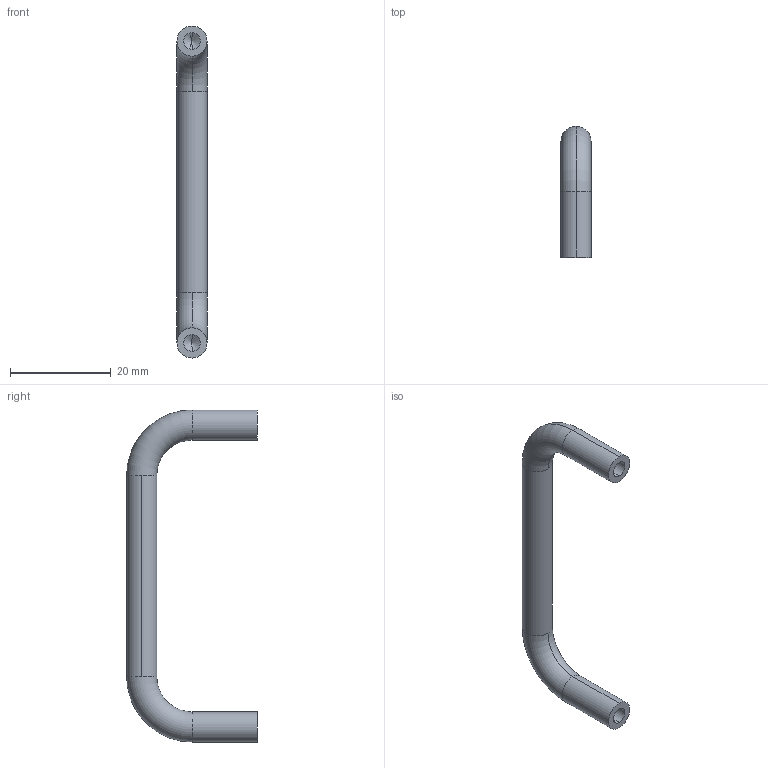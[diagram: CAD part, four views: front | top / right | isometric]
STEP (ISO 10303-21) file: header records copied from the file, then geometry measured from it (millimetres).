
FILE_DESCRIPTION (( 'STEP AP203' ), '1' );
FILE_NAME ('E03-503060.STEP', '2023-04-20T06:38:36', ( '' ), ( '' ), 'SwSTEP 2.0', 'SolidWorks 2021', '' );
FILE_SCHEMA (( 'CONFIG_CONTROL_DESIGN' ));
Length unit declared in the file: millimetre
Products named in the file (1): E03-503060
Bounding box: 6 x 26 x 66 mm (x, y, z)
Volume: 2552 mm3; surface area: 2134.1 mm2
Topology: 1 solids, 1 shells, 20 faces, 46 edges, 26 vertices
Faces by surface type: cylinder 10, torus 4, cone 4, plane 2
Entity records: 623 total; most frequent: DIRECTION 112, CARTESIAN_POINT 89, ORIENTED_EDGE 84, AXIS2_PLACEMENT_3D 49, EDGE_CURVE 42, CIRCLE 28, VERTEX_POINT 26, EDGE_LOOP 22
